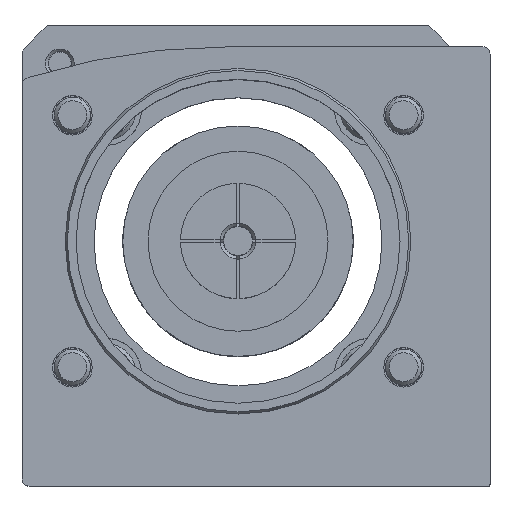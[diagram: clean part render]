
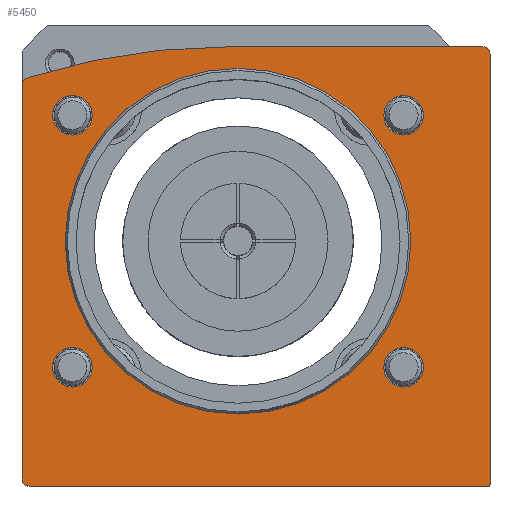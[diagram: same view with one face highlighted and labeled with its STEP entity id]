
A CAD part, top view. The second image highlights one B-rep face of the part: STEP entity #5450.
In plain terms, the highlighted planar face has unit normal (0, 0, 1).
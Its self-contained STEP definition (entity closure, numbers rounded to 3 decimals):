
#204=LINE('',#8270,#561);
#210=LINE('',#8290,#567);
#214=LINE('',#8302,#571);
#218=LINE('',#8314,#575);
#561=VECTOR('',#6530,54.599);
#567=VECTOR('',#6550,35.5);
#571=VECTOR('',#6562,59.8);
#575=VECTOR('',#6574,63.8);
#925=PLANE('',#5823);
#1150=FACE_BOUND('',#1652,.T.);
#1151=FACE_BOUND('',#1653,.T.);
#1152=FACE_BOUND('',#1654,.T.);
#1153=FACE_BOUND('',#1655,.T.);
#1154=FACE_BOUND('',#1656,.T.);
#1297=FACE_OUTER_BOUND('',#1651,.T.);
#1651=EDGE_LOOP('',(#3825,#3826,#3827,#3828,#3829,#3830,#3831,#3832,#3833));
#1652=EDGE_LOOP('',(#3834));
#1653=EDGE_LOOP('',(#3835));
#1654=EDGE_LOOP('',(#3836));
#1655=EDGE_LOOP('',(#3837));
#1656=EDGE_LOOP('',(#3838));
#2095=CIRCLE('',#5778,2.75);
#2097=CIRCLE('',#5781,2.75);
#2099=CIRCLE('',#5784,2.75);
#2101=CIRCLE('',#5787,2.75);
#2105=CIRCLE('',#5793,24.);
#2110=CIRCLE('',#5805,1.2);
#2112=CIRCLE('',#5808,92.);
#2114=CIRCLE('',#5812,1.);
#2116=CIRCLE('',#5816,0.2);
#2118=CIRCLE('',#5820,1.);
#2430=VERTEX_POINT('',#8227);
#2432=VERTEX_POINT('',#8232);
#2434=VERTEX_POINT('',#8237);
#2436=VERTEX_POINT('',#8242);
#2440=VERTEX_POINT('',#8252);
#2445=VERTEX_POINT('',#8268);
#2446=VERTEX_POINT('',#8269);
#2449=VERTEX_POINT('',#8277);
#2451=VERTEX_POINT('',#8283);
#2453=VERTEX_POINT('',#8289);
#2455=VERTEX_POINT('',#8295);
#2457=VERTEX_POINT('',#8301);
#2459=VERTEX_POINT('',#8307);
#2461=VERTEX_POINT('',#8313);
#2972=EDGE_CURVE('',#2430,#2430,#2095,.T.);
#2974=EDGE_CURVE('',#2432,#2432,#2097,.T.);
#2976=EDGE_CURVE('',#2434,#2434,#2099,.T.);
#2978=EDGE_CURVE('',#2436,#2436,#2101,.T.);
#2982=EDGE_CURVE('',#2440,#2440,#2105,.T.);
#2987=EDGE_CURVE('',#2445,#2446,#204,.T.);
#2991=EDGE_CURVE('',#2446,#2449,#2110,.T.);
#2994=EDGE_CURVE('',#2449,#2451,#2112,.T.);
#2997=EDGE_CURVE('',#2451,#2453,#210,.T.);
#3000=EDGE_CURVE('',#2453,#2455,#2114,.T.);
#3003=EDGE_CURVE('',#2455,#2457,#214,.T.);
#3006=EDGE_CURVE('',#2457,#2459,#2116,.T.);
#3009=EDGE_CURVE('',#2459,#2461,#218,.T.);
#3012=EDGE_CURVE('',#2461,#2445,#2118,.T.);
#3825=ORIENTED_EDGE('',*,*,#2987,.F.);
#3826=ORIENTED_EDGE('',*,*,#3012,.F.);
#3827=ORIENTED_EDGE('',*,*,#3009,.F.);
#3828=ORIENTED_EDGE('',*,*,#3006,.F.);
#3829=ORIENTED_EDGE('',*,*,#3003,.F.);
#3830=ORIENTED_EDGE('',*,*,#3000,.F.);
#3831=ORIENTED_EDGE('',*,*,#2997,.F.);
#3832=ORIENTED_EDGE('',*,*,#2994,.F.);
#3833=ORIENTED_EDGE('',*,*,#2991,.F.);
#3834=ORIENTED_EDGE('',*,*,#2972,.T.);
#3835=ORIENTED_EDGE('',*,*,#2974,.T.);
#3836=ORIENTED_EDGE('',*,*,#2976,.T.);
#3837=ORIENTED_EDGE('',*,*,#2978,.T.);
#3838=ORIENTED_EDGE('',*,*,#2982,.T.);
#5450=ADVANCED_FACE('',(#1297,#1150,#1151,#1152,#1153,#1154),#925,.T.);
#5778=AXIS2_PLACEMENT_3D('',#8228,#6478,#6479);
#5781=AXIS2_PLACEMENT_3D('',#8233,#6484,#6485);
#5784=AXIS2_PLACEMENT_3D('',#8238,#6490,#6491);
#5787=AXIS2_PLACEMENT_3D('',#8243,#6496,#6497);
#5793=AXIS2_PLACEMENT_3D('',#8253,#6508,#6509);
#5805=AXIS2_PLACEMENT_3D('',#8278,#6536,#6537);
#5808=AXIS2_PLACEMENT_3D('',#8284,#6543,#6544);
#5812=AXIS2_PLACEMENT_3D('',#8296,#6555,#6556);
#5816=AXIS2_PLACEMENT_3D('',#8308,#6567,#6568);
#5820=AXIS2_PLACEMENT_3D('',#8319,#6579,#6580);
#5823=AXIS2_PLACEMENT_3D('',#8322,#6585,#6586);
#6478=DIRECTION('center_axis',(0.,0.,-1.));
#6479=DIRECTION('ref_axis',(-1.,0.,0.));
#6484=DIRECTION('center_axis',(0.,0.,-1.));
#6485=DIRECTION('ref_axis',(-1.,0.,0.));
#6490=DIRECTION('center_axis',(0.,0.,-1.));
#6491=DIRECTION('ref_axis',(-1.,0.,0.));
#6496=DIRECTION('center_axis',(0.,0.,-1.));
#6497=DIRECTION('ref_axis',(-1.,0.,0.));
#6508=DIRECTION('center_axis',(0.,0.,-1.));
#6509=DIRECTION('ref_axis',(0.,1.,0.));
#6530=DIRECTION('',(0.,1.,0.));
#6536=DIRECTION('center_axis',(0.,0.,-1.));
#6537=DIRECTION('ref_axis',(-0.301,0.954,0.));
#6543=DIRECTION('center_axis',(0.,0.,-1.));
#6544=DIRECTION('ref_axis',(0.,1.,0.));
#6550=DIRECTION('',(1.,0.,0.));
#6555=DIRECTION('center_axis',(0.,0.,-1.));
#6556=DIRECTION('ref_axis',(1.,0.,0.));
#6562=DIRECTION('',(0.,-1.,0.));
#6567=DIRECTION('center_axis',(0.,0.,-1.));
#6568=DIRECTION('ref_axis',(0.,-1.,0.));
#6574=DIRECTION('',(-1.,0.,0.));
#6579=DIRECTION('center_axis',(0.,0.,-1.));
#6580=DIRECTION('ref_axis',(-1.,0.,0.));
#6585=DIRECTION('center_axis',(0.,0.,1.));
#6586=DIRECTION('ref_axis',(1.,0.,0.));
#8227=CARTESIAN_POINT('',(-25.75,17.5,28.));
#8228=CARTESIAN_POINT('Origin',(-23.,17.5,28.));
#8232=CARTESIAN_POINT('',(-25.75,-17.5,28.));
#8233=CARTESIAN_POINT('Origin',(-23.,-17.5,28.));
#8237=CARTESIAN_POINT('',(20.25,-17.5,28.));
#8238=CARTESIAN_POINT('Origin',(23.,-17.5,28.));
#8242=CARTESIAN_POINT('',(20.25,17.5,28.));
#8243=CARTESIAN_POINT('Origin',(23.,17.5,28.));
#8252=CARTESIAN_POINT('',(0.,-24.,28.));
#8253=CARTESIAN_POINT('Origin',(0.,0.,28.));
#8268=CARTESIAN_POINT('',(-30.,-33.,28.));
#8269=CARTESIAN_POINT('',(-30.,21.599,28.));
#8270=CARTESIAN_POINT('',(-30.,21.599,28.));
#8277=CARTESIAN_POINT('',(-29.161,22.743,28.));
#8278=CARTESIAN_POINT('Origin',(-28.8,21.599,28.));
#8283=CARTESIAN_POINT('',(-1.5,27.,28.));
#8284=CARTESIAN_POINT('Origin',(-1.5,-65.,28.));
#8289=CARTESIAN_POINT('',(34.,27.,28.));
#8290=CARTESIAN_POINT('',(34.,27.,28.));
#8295=CARTESIAN_POINT('',(35.,26.,28.));
#8296=CARTESIAN_POINT('Origin',(34.,26.,28.));
#8301=CARTESIAN_POINT('',(35.,-33.8,28.));
#8302=CARTESIAN_POINT('',(35.,-33.8,28.));
#8307=CARTESIAN_POINT('',(34.8,-34.,28.));
#8308=CARTESIAN_POINT('Origin',(34.8,-33.8,28.));
#8313=CARTESIAN_POINT('',(-29.,-34.,28.));
#8314=CARTESIAN_POINT('',(-29.,-34.,28.));
#8319=CARTESIAN_POINT('Origin',(-29.,-33.,28.));
#8322=CARTESIAN_POINT('Origin',(3.069,-4.159,28.));
